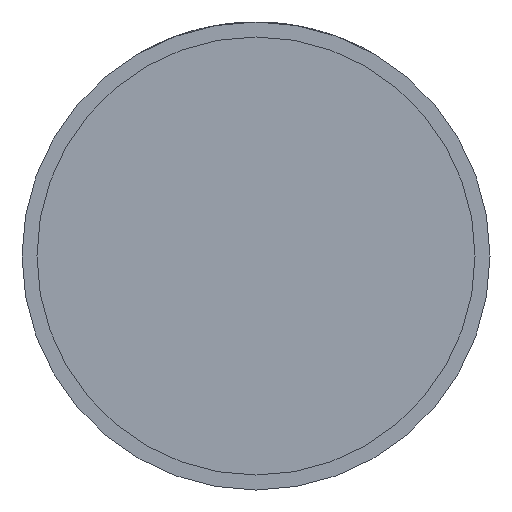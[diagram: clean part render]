
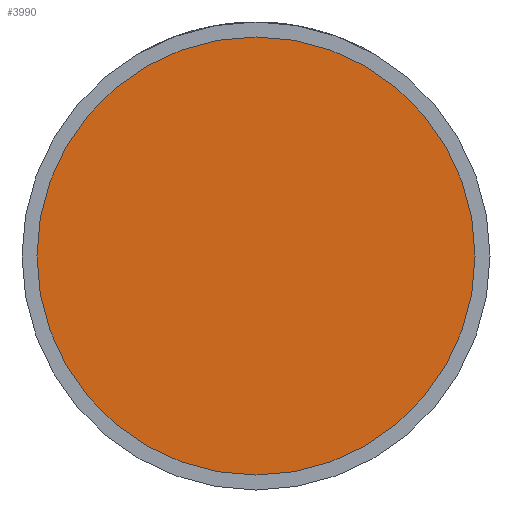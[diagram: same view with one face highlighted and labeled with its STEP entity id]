
A CAD part, front view. The second image highlights one B-rep face of the part: STEP entity #3990.
In plain terms, the highlighted planar face has unit normal (0, -1, 0).
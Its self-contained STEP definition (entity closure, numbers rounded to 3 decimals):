
#173 = CIRCLE ( 'NONE', #4196, 33.7 ) ;
#257 = CIRCLE ( 'NONE', #3386, 33.7 ) ;
#612 = CARTESIAN_POINT ( 'NONE',  ( -33.7, -20., 0. ) ) ;
#706 = DIRECTION ( 'NONE',  ( 0., -1., 0. ) ) ;
#782 = CARTESIAN_POINT ( 'NONE',  ( 33.7, -20., 0. ) ) ;
#1051 = DIRECTION ( 'NONE',  ( 0., -1., 0. ) ) ;
#1202 = FACE_OUTER_BOUND ( 'NONE', #2962, .T. ) ;
#1602 = EDGE_CURVE ( 'NONE', #4200, #3888, #173, .T. ) ;
#1650 = AXIS2_PLACEMENT_3D ( 'NONE', #2551, #3881, #3584 ) ;
#2056 = CARTESIAN_POINT ( 'NONE',  ( 0., -20., 0. ) ) ;
#2340 = DIRECTION ( 'NONE',  ( 1., 0., 0. ) ) ;
#2551 = CARTESIAN_POINT ( 'NONE',  ( 33.7, -20., 0. ) ) ;
#2908 = PLANE ( 'NONE',  #1650 ) ;
#2962 = EDGE_LOOP ( 'NONE', ( #3844, #3863 ) ) ;
#3386 = AXIS2_PLACEMENT_3D ( 'NONE', #2056, #706, #4016 ) ;
#3584 = DIRECTION ( 'NONE',  ( 1., 0., 0. ) ) ;
#3751 = CARTESIAN_POINT ( 'NONE',  ( 0., -20., 0. ) ) ;
#3844 = ORIENTED_EDGE ( 'NONE', *, *, #1602, .T. ) ;
#3863 = ORIENTED_EDGE ( 'NONE', *, *, #4091, .T. ) ;
#3881 = DIRECTION ( 'NONE',  ( 0., -1., 0. ) ) ;
#3888 = VERTEX_POINT ( 'NONE', #612 ) ;
#3990 = ADVANCED_FACE ( 'NONE', ( #1202 ), #2908, .T. ) ;
#4016 = DIRECTION ( 'NONE',  ( 1., 0., 0. ) ) ;
#4091 = EDGE_CURVE ( 'NONE', #3888, #4200, #257, .T. ) ;
#4196 = AXIS2_PLACEMENT_3D ( 'NONE', #3751, #1051, #2340 ) ;
#4200 = VERTEX_POINT ( 'NONE', #782 ) ;
